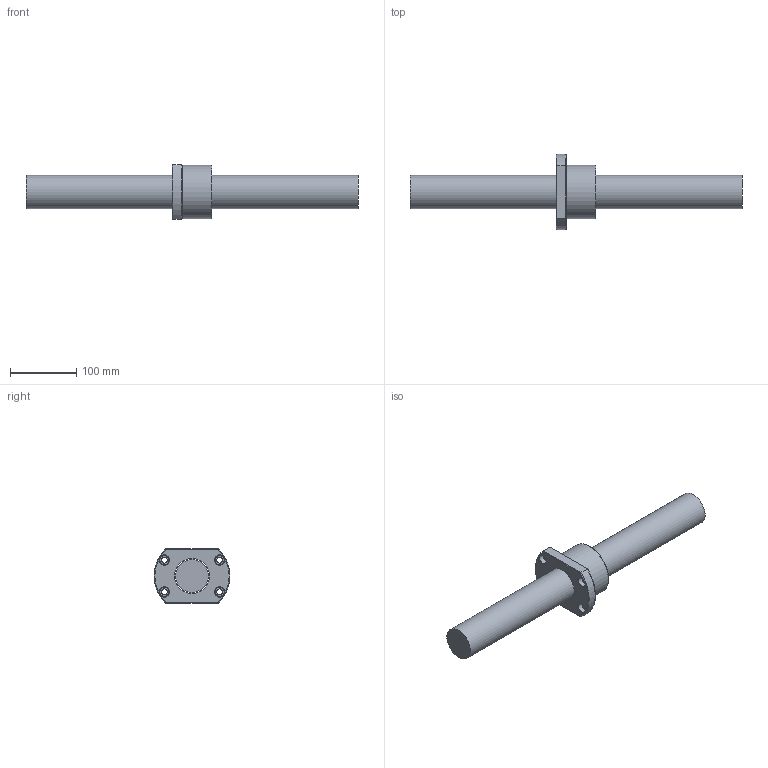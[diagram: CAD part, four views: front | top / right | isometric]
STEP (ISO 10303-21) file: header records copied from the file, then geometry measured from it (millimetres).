
FILE_DESCRIPTION (( 'STEP AP203' ), '1' );
FILE_NAME ('SFV05005D-4.8.step', '2024-05-20T03:39:53', ( '' ), ( '' ), 'SwSTEP 2.0', 'SolidWorks 2022', '' );
FILE_SCHEMA (( 'CONFIG_CONTROL_DESIGN' ));
Length unit declared in the file: millimetre
Products named in the file (1): SFV05005D-4.8
Bounding box: 500 x 114 x 82 mm (x, y, z)
Volume: 1198781.5 mm3; surface area: 123090.6 mm2
Topology: 2 solids, 2 shells, 56 faces, 136 edges, 89 vertices
Faces by surface type: cylinder 21, plane 16, cone 9, bspline 5, torus 5
Full cylindrical faces by diameter (mm): 4 x1, 7 x6, 9 x4, 14 x4, 50 x1, 52.2 x1, 80 x1
Entity records: 3859 total; most frequent: CARTESIAN_POINT 2807, DIRECTION 188, ORIENTED_EDGE 170, EDGE_LOOP 90, AXIS2_PLACEMENT_3D 87, EDGE_CURVE 85, VERTEX_POINT 69, FACE_OUTER_BOUND 64
